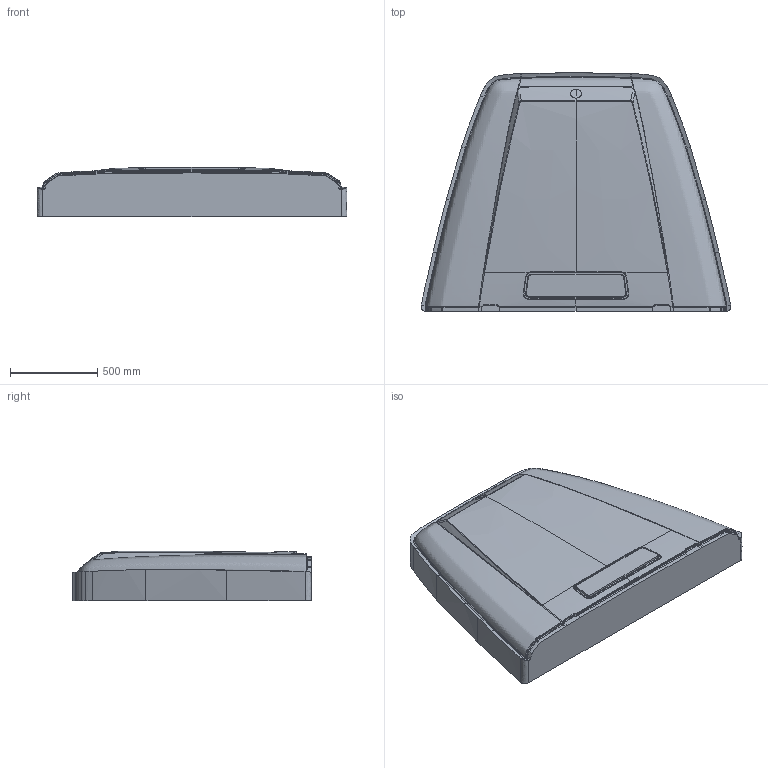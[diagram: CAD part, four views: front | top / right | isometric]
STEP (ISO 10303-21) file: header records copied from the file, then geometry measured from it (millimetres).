
FILE_DESCRIPTION( ('This file contains a STEP AP42 implementation' ,'as created by ZW3D STEP Interface translator.') ,'2;1' );
FILE_NAME( 'mecanizado_corregido_v0.stp' ,'19 9 9.22 1 0', (''), ('ZWCAD Software Co.'), 'Version 1.0', 'ZW3D to STEP translator', '' );
FILE_SCHEMA(('AUTOMOTIVE_DESIGN'));
Length unit declared in the file: millimetre
Products named in the file (2): 0; mecanizado
Bounding box: 1776.4 x 1368.04 x 285.32 mm (x, y, z)
Volume: 506372549.6 mm3; surface area: 5211073.6 mm2
Topology: 2 solids, 2 shells, 358 faces, 1199 edges, 837 vertices
Faces by surface type: bspline 358
Entity records: 338345 total; most frequent: CARTESIAN_POINT 330943, ORIENTED_EDGE 2378, EDGE_CURVE 1189, B_SPLINE_CURVE_WITH_KNOTS 1183, VERTEX_POINT 836, EDGE_LOOP 357, FACE_OUTER_BOUND 357, ADVANCED_FACE 357
